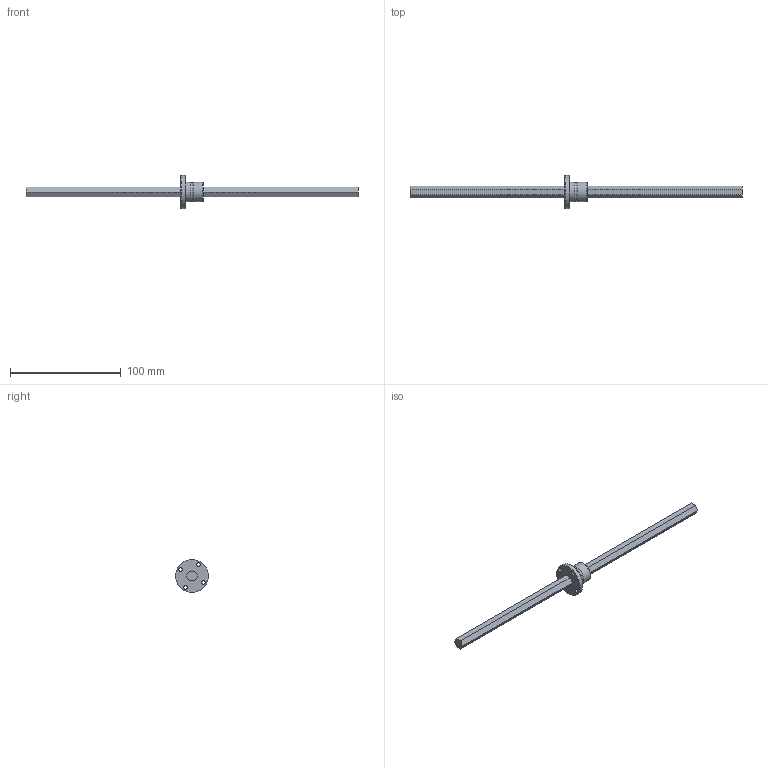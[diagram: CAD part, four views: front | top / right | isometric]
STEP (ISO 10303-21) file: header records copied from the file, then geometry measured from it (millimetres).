
FILE_DESCRIPTION((''),'2;1');
FILE_NAME('D:\製品 (図面)\カタログ用3D\ネジ関連\STEP形式\HTF\HTF9.stp','2010-06-01T16:47:18',('Tsuchiya'),(''),'Autodesk Inventor 10','Autodesk Inventor 10','');
FILE_SCHEMA(('AUTOMOTIVE_DESIGN { 1 0 10303 214 1 1 1 1 }'));
Length unit declared in the file: millimetre
Products named in the file (3): HTF9; HTF91; HTF92
Assembly tree (2 placements, depth 2):
  HTF9
    HTF91
    HTF92
Bounding box: 300 x 30 x 30 mm (x, y, z)
Volume: 26287.2 mm3; surface area: 12791.1 mm2
Topology: 2 solids, 2 shells, 39 faces, 96 edges, 64 vertices
Faces by surface type: plane 25, cylinder 9, cone 2, bspline 2, torus 1
Full cylindrical faces by diameter (mm): 1 x1, 3.5 x4, 11 x1, 18 x2, 30 x1
Entity records: 1341 total; most frequent: CARTESIAN_POINT 405, DIRECTION 178, ORIENTED_EDGE 152, EDGE_CURVE 76, EDGE_LOOP 68, AXIS2_PLACEMENT_3D 62, VERTEX_POINT 58, VECTOR 54
